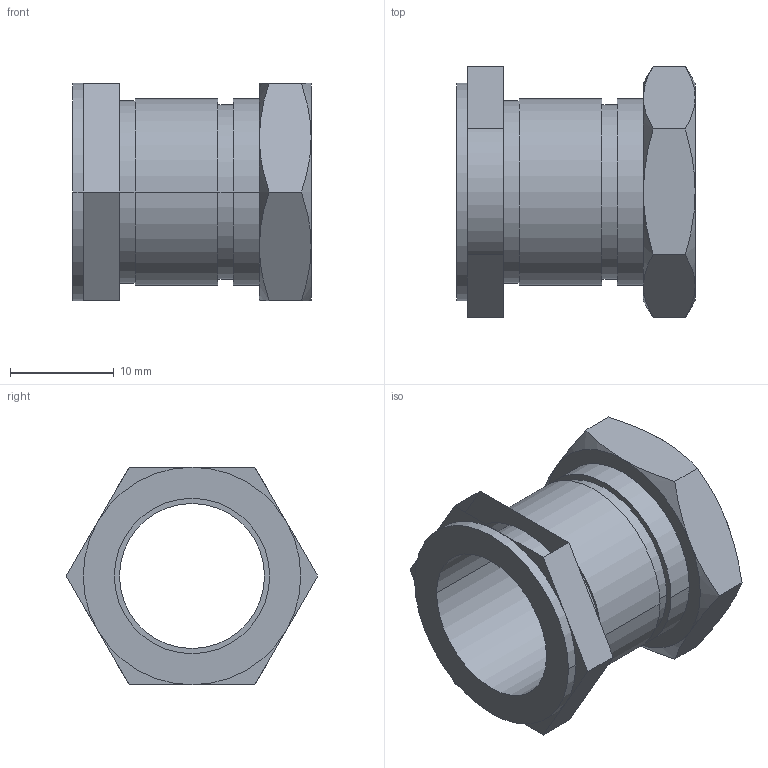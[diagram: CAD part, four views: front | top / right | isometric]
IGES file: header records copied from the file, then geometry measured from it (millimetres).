
Start section: Elysium IGES Interface
Global section: file name: 98HU:\cad_data\30_3D_CAD\LG\オプション\追加モデル\02ADN371・02ADB692_スラストステム・締付けナット.igs; native system: Creo Elements/Direct Modeling 18.1I  13-Aug-2016; preprocessor: Creo Element/Direct IGES_3D V2.2; author: Unknown; organization: Unknown; date: 20210615.111755; units: millimetre
Bounding box: 23 x 24.25 x 21 mm (x, y, z)
Volume: 3023.8 mm3; surface area: 3833.2 mm2
Topology: 2 solids, 2 shells, 55 faces, 126 edges, 80 vertices
Faces by surface type: bspline 55
